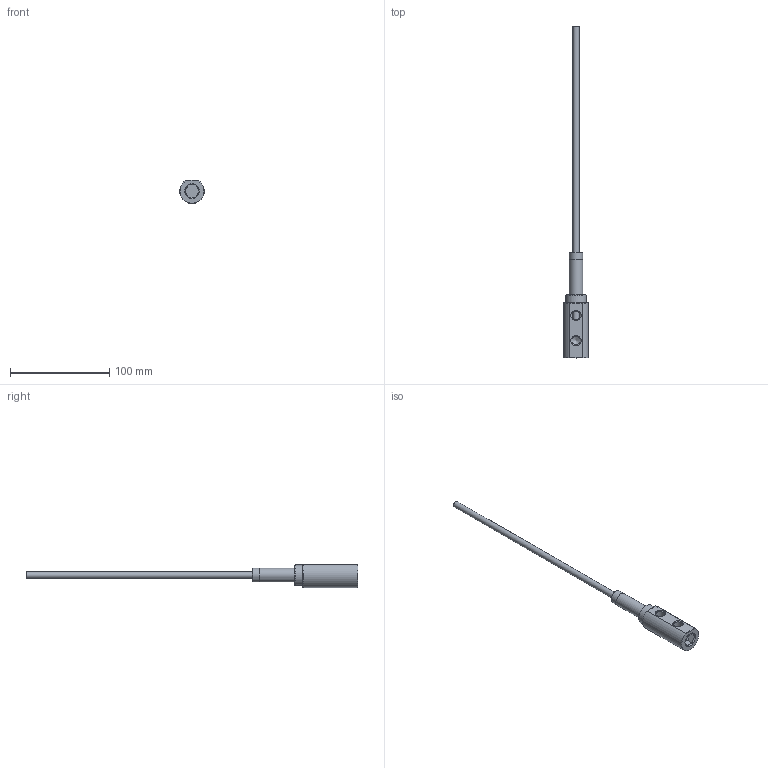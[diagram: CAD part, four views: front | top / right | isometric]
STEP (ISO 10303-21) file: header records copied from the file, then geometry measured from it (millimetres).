
FILE_DESCRIPTION(/* description */ (''),/* implementation_level */ '2;1');
FILE_NAME(/* name */ 'C:/Users/drich/Desktop/E141N v1.step',/* time_stamp */ '2020-01-15T19:30:32-06:00',/* author */ (''),/* organization */ (''),/* preprocessor_version */ 'ST-DEVELOPER v18',/* originating_system */ 'Autodesk Translation Framework v8.12.0.6',/* authorisation */ '');
FILE_SCHEMA (('AUTOMOTIVE_DESIGN { 1 0 10303 214 3 1 1 }'));
Length unit declared in the file: inch
Products named in the file (4): E141N; E141H-4; SSPN14-2; HF250T-12
Assembly tree (3 placements, depth 2):
  E141N
    E141H-4
    SSPN14-2
    HF250T-12
Bounding box: 25.02 x 334.52 x 23.29 mm (x, y, z)
Volume: 28675.8 mm3; surface area: 23459.1 mm2
Topology: 3 solids, 3 shells, 66 faces, 167 edges, 111 vertices
Faces by surface type: plane 28, cylinder 17, cone 15, torus 5, bspline 1
Full cylindrical faces by diameter (mm): 5.842 x1, 6.35 x1, 6.909 x1, 7.818 x1, 7.976 x1, 8.707 x3, 9.246 x1, 9.525 x1, 11.668 x1, 13.665 x2, 13.716 x1, 14.665 x1, 20.625 x1
Entity records: 2373 total; most frequent: CARTESIAN_POINT 649, DIRECTION 356, ORIENTED_EDGE 330, EDGE_CURVE 165, AXIS2_PLACEMENT_3D 153, VERTEX_POINT 111, CIRCLE 81, EDGE_LOOP 80
